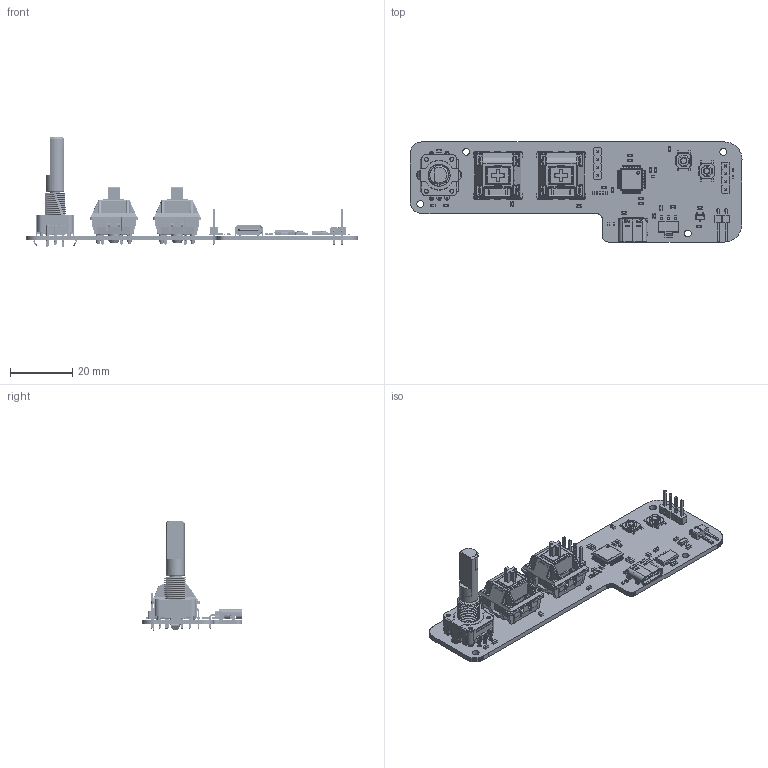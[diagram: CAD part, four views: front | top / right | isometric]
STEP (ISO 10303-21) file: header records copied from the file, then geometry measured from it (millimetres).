
FILE_DESCRIPTION(('KiCad electronic assembly'),'2;1');
FILE_NAME('macropad.step','2024-09-19T16:40:51',('Pcbnew'),('Kicad'), 'Open CASCADE STEP processor 7.6','KiCad to STEP converter','Unknown' );
FILE_SCHEMA(('AUTOMOTIVE_DESIGN { 1 0 10303 214 1 1 1 1 }'));
Length unit declared in the file: millimetre
Products named in the file (24): macropad 1; C_0603_1608Metric; SOLID; PinHeader_1x02_P2.54mm_Horizontal; STM32F072CBT6; COMPOUND; SW_Cherry_MX_PCB; R_0402_1005Metric; TS-1187A-B-A-B; USB_C_Receptacle_GCT_USB4105-xx-A_16P_TopMnt_Horizontal; PinHeader_1x04_P2.54mm_Vertical; XC6206P332MR-G; SOT-223; PEC12R-4215F-S0024; macropad PCB
Assembly tree (54 placements, depth 3):
  macropad 1
    C_0603_1608Metric  x20
      SOLID
    PinHeader_1x02_P2.54mm_Horizontal
      SOLID
    STM32F072CBT6
      COMPOUND
    SW_Cherry_MX_PCB  x2
      COMPOUND
    R_0402_1005Metric  x10
      SOLID
    TS-1187A-B-A-B  x2
      SOLID
    USB_C_Receptacle_GCT_USB4105-xx-A_16P_TopMnt_Horizontal
      COMPOUND
    PinHeader_1x04_P2.54mm_Vertical  x2
      SOLID
    XC6206P332MR-G
      COMPOUND
    SOT-223
      SOLID
    PEC12R-4215F-S0024
      SOLID
    macropad PCB
Bounding box: 106.53 x 32.1 x 35.2 mm (x, y, z)
Volume: 8347 mm3; surface area: 16198.6 mm2
Topology: 141 solids, 143 shells, 6237 faces, 16469 edges, 10653 vertices
Faces by surface type: plane 4536, cylinder 1413, torus 91, bspline 88, sphere 68, cone 41
Full cylindrical faces by diameter (mm): 0.206 x1, 0.5 x2, 0.65 x2, 0.875 x1, 1 x10, 1.2 x5, 1.5 x4, 1.75 x4, 2.2 x4, 3.28 x2, 4 x2
Entity records: 305298 total; most frequent: CARTESIAN_POINT 84668, DIRECTION 37723, LINE 26339, VECTOR 26339, ORIENTED_EDGE 20272, PCURVE 20272, DEFINITIONAL_REPRESENTATION 20272, EDGE_CURVE 10136
